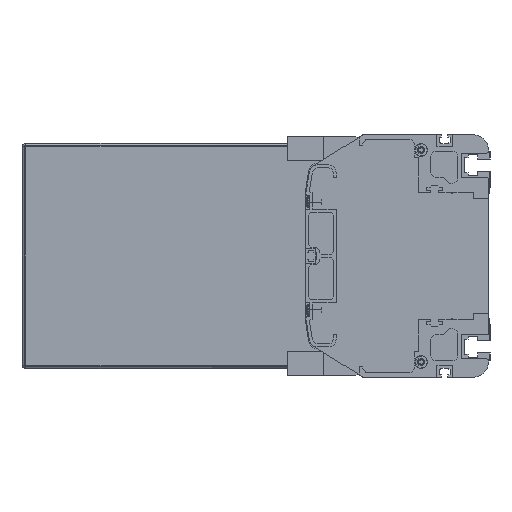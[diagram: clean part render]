
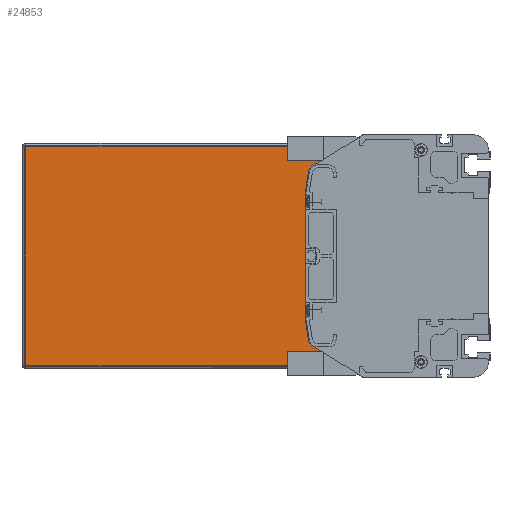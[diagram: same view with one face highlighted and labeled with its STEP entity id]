
A CAD part, left-side view. The second image highlights one B-rep face of the part: STEP entity #24853.
In plain terms, the highlighted planar face has unit normal (-1, 0, 0).
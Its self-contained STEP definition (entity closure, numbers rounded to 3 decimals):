
#1350=DIRECTION('',(0.,0.,-1.));
#1351=VECTOR('',#1350,11.);
#1352=CARTESIAN_POINT('',(2886.5,86.,-61.));
#1353=LINE('',#1352,#1351);
#1359=DIRECTION('',(0.,0.,-1.));
#1360=VECTOR('',#1359,11.);
#1361=CARTESIAN_POINT('',(2886.5,86.,72.));
#1362=LINE('',#1361,#1360);
#1372=DIRECTION('',(0.,-1.,0.));
#1373=VECTOR('',#1372,220.5);
#1374=CARTESIAN_POINT('',(2886.5,306.5,-72.));
#1375=LINE('',#1374,#1373);
#5186=DIRECTION('',(0.,1.,0.));
#5187=VECTOR('',#5186,28.728);
#5188=CARTESIAN_POINT('',(2886.5,86.,-61.));
#5189=LINE('',#5188,#5187);
#5194=CARTESIAN_POINT('',(2886.5,114.728,56.));
#5195=DIRECTION('',(-1.,0.,0.));
#5196=DIRECTION('',(0.,0.,1.));
#5197=AXIS2_PLACEMENT_3D('',#5194,#5195,#5196);
#5199=DIRECTION('',(0.,0.156,-0.988));
#5200=VECTOR('',#5199,14.963);
#5201=CARTESIAN_POINT('',(2886.5,119.666,56.78));
#5202=LINE('',#5201,#5200);
#5203=DIRECTION('',(0.,-0.156,-0.988));
#5204=VECTOR('',#5203,14.963);
#5205=CARTESIAN_POINT('',(2886.5,122.,-42.));
#5206=LINE('',#5205,#5204);
#5207=CARTESIAN_POINT('',(2886.5,114.728,-56.));
#5208=DIRECTION('',(-1.,0.,0.));
#5209=DIRECTION('',(0.,0.988,-0.156));
#5210=AXIS2_PLACEMENT_3D('',#5207,#5208,#5209);
#5216=DIRECTION('',(0.,0.,-1.));
#5217=VECTOR('',#5216,144.);
#5218=CARTESIAN_POINT('',(2886.5,306.5,72.));
#5219=LINE('',#5218,#5217);
#5385=DIRECTION('',(0.,1.,0.));
#5386=VECTOR('',#5385,220.5);
#5387=CARTESIAN_POINT('',(2886.5,86.,72.));
#5388=LINE('',#5387,#5386);
#5971=DIRECTION('',(0.,-1.,0.));
#5972=VECTOR('',#5971,28.728);
#5973=CARTESIAN_POINT('',(2886.5,114.728,61.));
#5974=LINE('',#5973,#5972);
#5987=DIRECTION('',(0.,0.,1.));
#5988=VECTOR('',#5987,84.);
#5989=CARTESIAN_POINT('',(2886.5,122.,-42.));
#5990=LINE('',#5989,#5988);
#16274=CARTESIAN_POINT('',(2886.5,306.5,-72.));
#16275=CARTESIAN_POINT('',(2886.5,86.,-72.));
#16276=VERTEX_POINT('',#16274);
#16277=VERTEX_POINT('',#16275);
#16278=CARTESIAN_POINT('',(2886.5,86.,-61.));
#16279=VERTEX_POINT('',#16278);
#16280=CARTESIAN_POINT('',(2886.5,114.728,-61.));
#16281=VERTEX_POINT('',#16280);
#16282=CARTESIAN_POINT('',(2886.5,119.666,-56.78));
#16283=VERTEX_POINT('',#16282);
#16284=CARTESIAN_POINT('',(2886.5,122.,-42.));
#16285=VERTEX_POINT('',#16284);
#16286=CARTESIAN_POINT('',(2886.5,122.,42.));
#16287=VERTEX_POINT('',#16286);
#16288=CARTESIAN_POINT('',(2886.5,119.666,56.78));
#16289=VERTEX_POINT('',#16288);
#16290=CARTESIAN_POINT('',(2886.5,114.728,61.));
#16291=VERTEX_POINT('',#16290);
#16292=CARTESIAN_POINT('',(2886.5,86.,61.));
#16293=VERTEX_POINT('',#16292);
#16294=CARTESIAN_POINT('',(2886.5,86.,72.));
#16295=VERTEX_POINT('',#16294);
#16296=CARTESIAN_POINT('',(2886.5,306.5,72.));
#16297=VERTEX_POINT('',#16296);
#24826=CARTESIAN_POINT('',(2886.5,196.25,0.));
#24827=DIRECTION('',(1.,0.,0.));
#24828=DIRECTION('',(0.,0.,-1.));
#24829=AXIS2_PLACEMENT_3D('',#24826,#24827,#24828);
#24830=PLANE('',#24829);
#24831=ORIENTED_EDGE('',*,*,#21022,.F.);
#24833=ORIENTED_EDGE('',*,*,#24832,.F.);
#24835=ORIENTED_EDGE('',*,*,#24834,.F.);
#24836=ORIENTED_EDGE('',*,*,#21004,.T.);
#24838=ORIENTED_EDGE('',*,*,#24837,.F.);
#24840=ORIENTED_EDGE('',*,*,#24839,.T.);
#24842=ORIENTED_EDGE('',*,*,#24841,.T.);
#24844=ORIENTED_EDGE('',*,*,#24843,.F.);
#24846=ORIENTED_EDGE('',*,*,#24845,.T.);
#24848=ORIENTED_EDGE('',*,*,#24847,.T.);
#24849=ORIENTED_EDGE('',*,*,#24818,.F.);
#24850=ORIENTED_EDGE('',*,*,#20972,.T.);
#24851=EDGE_LOOP('',(#24831,#24833,#24835,#24836,#24838,#24840,#24842,#24844,
#24846,#24848,#24849,#24850));
#24852=FACE_OUTER_BOUND('',#24851,.F.);
#24853=ADVANCED_FACE('',(#24852),#24830,.F.);
#5198=CIRCLE('',#5197,5.);
#5211=CIRCLE('',#5210,5.);
#20972=EDGE_CURVE('',#16279,#16277,#1353,.T.);
#21004=EDGE_CURVE('',#16295,#16293,#1362,.T.);
#21022=EDGE_CURVE('',#16276,#16277,#1375,.T.);
#24818=EDGE_CURVE('',#16279,#16281,#5189,.T.);
#24832=EDGE_CURVE('',#16297,#16276,#5219,.T.);
#24834=EDGE_CURVE('',#16295,#16297,#5388,.T.);
#24837=EDGE_CURVE('',#16291,#16293,#5974,.T.);
#24839=EDGE_CURVE('',#16291,#16289,#5198,.T.);
#24841=EDGE_CURVE('',#16289,#16287,#5202,.T.);
#24843=EDGE_CURVE('',#16285,#16287,#5990,.T.);
#24845=EDGE_CURVE('',#16285,#16283,#5206,.T.);
#24847=EDGE_CURVE('',#16283,#16281,#5211,.T.);
